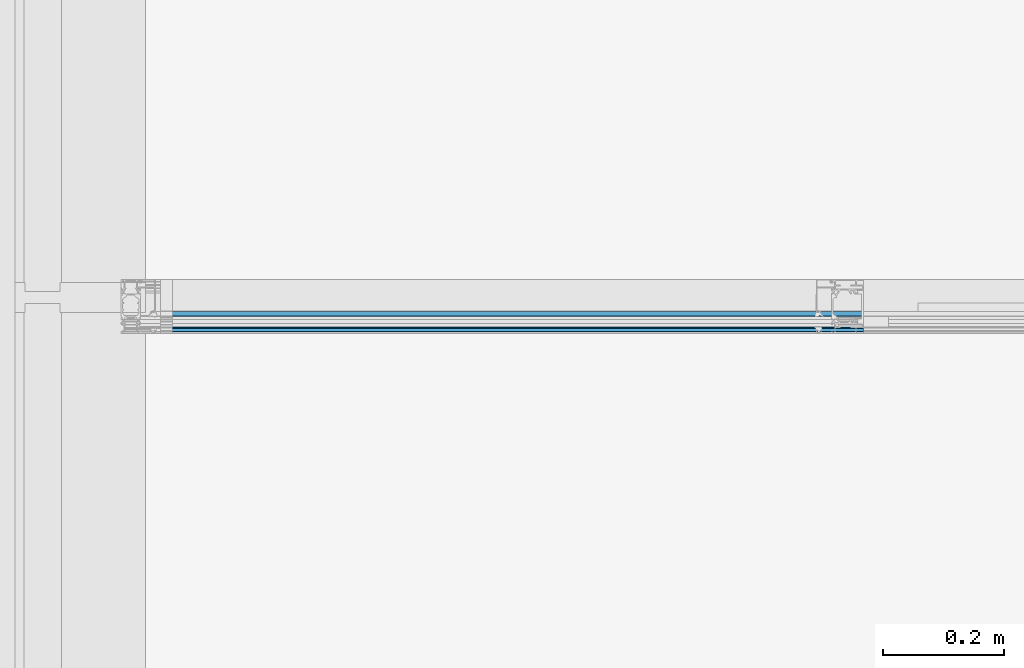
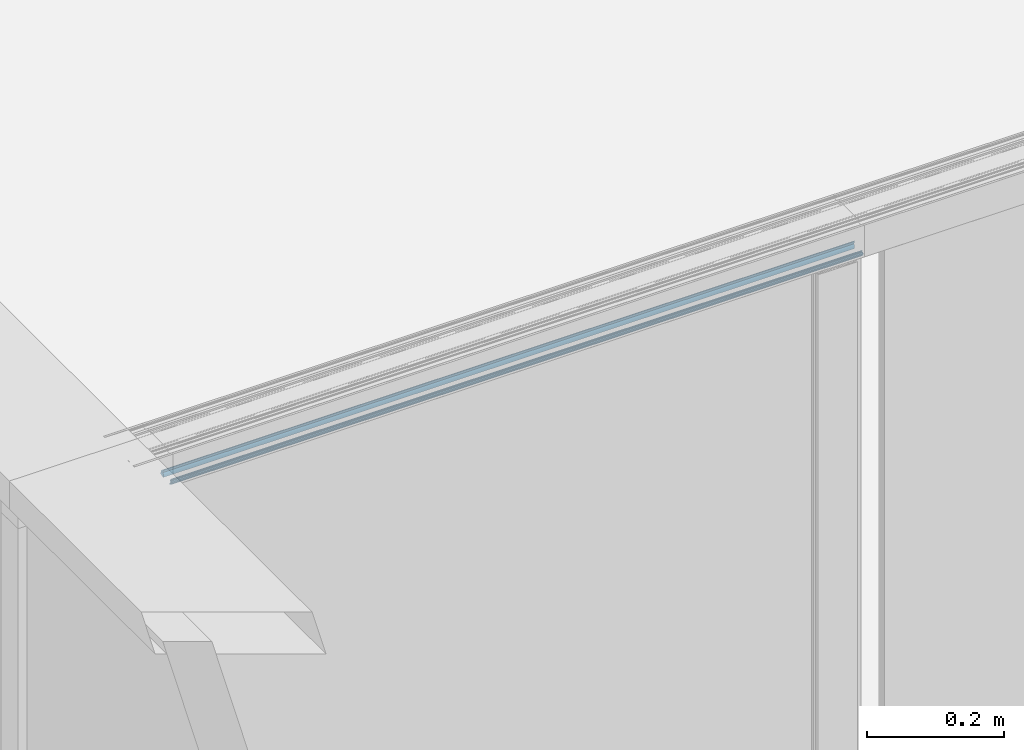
# One storey, part 15 of 69: 1 building element part, 2 elements without a shape of their own.
"""IFC2X3 building model written with IfcOpenShell, lengths in millimetres."""

from ifc_helpers import new_model, entity, si_unit, converted_unit, derived_unit, money_unit, direction, frame, origin_with_axes, place, context, subcontext, project, spatial, faceted_brep, material, type_object, element, aggregate, save


model = new_model("IFC2X3")

# Units and contexts
model_context = context("Model", 3, precision=0.01, world=origin_with_axes(), true_north=direction((0.0, 1.0)))
body_context = subcontext(model_context, "Body", "Model", "MODEL_VIEW")
ifc_project = project(units=[si_unit("LENGTHUNIT", "METRE", prefix="MILLI"), si_unit("AREAUNIT", "SQUARE_METRE"), si_unit("VOLUMEUNIT", "CUBIC_METRE"), converted_unit("PLANEANGLEUNIT", "DEGREE", entity("IfcPlaneAngleMeasure", 0.0174532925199), si_unit("PLANEANGLEUNIT", "RADIAN"), dimensions=[0, 0, 0, 0, 0, 0, 0]), si_unit("SOLIDANGLEUNIT", "STERADIAN"), money_unit("EUR"), converted_unit("TIMEUNIT", "Year", entity("IfcTimeMeasure", 31556926.0), si_unit("TIMEUNIT", "SECOND"), dimensions=[0, 0, 1, 0, 0, 0, 0]), si_unit("MASSUNIT", "GRAM", prefix="KILO"), si_unit("THERMODYNAMICTEMPERATUREUNIT", "DEGREE_CELSIUS"), si_unit("LUMINOUSINTENSITYUNIT", "LUMEN"), si_unit("ENERGYUNIT", "JOULE", prefix="MEGA"), derived_unit("THERMALCONDUCTANCEUNIT", [(si_unit("POWERUNIT", "WATT"), 1), (si_unit("LENGTHUNIT", "METRE"), -1), (si_unit("THERMODYNAMICTEMPERATUREUNIT", "KELVIN"), -1)]), derived_unit("SPECIFICHEATCAPACITYUNIT", [(si_unit("ENERGYUNIT", "JOULE"), 1), (si_unit("MASSUNIT", "GRAM", prefix="KILO"), -1), (si_unit("THERMODYNAMICTEMPERATUREUNIT", "KELVIN"), -1)]), derived_unit("MASSDENSITYUNIT", [(si_unit("MASSUNIT", "GRAM", prefix="KILO"), 1), (si_unit("VOLUMEUNIT", "CUBIC_METRE"), -1)])], contexts=[model_context])

# Site, building, storey
site_placement = place(None, origin_with_axes())
site = spatial("IfcSite", under=ifc_project, at=site_placement, Name="Puškini 31, Narva", CompositionType="ELEMENT")
building_placement = place(site_placement, origin_with_axes())
building = spatial("IfcBuilding", under=site, at=building_placement, Name="Narva Riigigümnaasium", CompositionType="ELEMENT")
storey_placement = place(building_placement, origin_with_axes())
storey = spatial("IfcBuildingStorey", under=building, at=storey_placement, Name="1.korrus 0.00", CompositionType="ELEMENT", Elevation=0.0)

# Curtain wall, member, building element part
curtain_wall_type = type_object("IfcCurtainWallType", Name="Curtain Wall Type", PredefinedType="NOTDEFINED")
curtain_wall_placement = place(storey_placement, frame((18229.9603698, 152620.000001, -0.397158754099), z_axis=(0.0, 0.0, 1.0), x_axis=(1.0, 0.0, 0.0)))
curtain_wall = element("IfcCurtainWall", 1, at=curtain_wall_placement, inside=storey, type_object=curtain_wall_type, Name="G-KLF-01-1")
member_type = type_object("IfcMemberType", Name="61 x 45", PredefinedType="MULLION")
member_placement = place(curtain_wall_placement, frame((-941.130133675, 0.0, 3760.3971197), z_axis=(-1.0, 0.0, 0.0), x_axis=(0.0, 0.0, 1.0)))
member = element("IfcMember", 2, at=member_placement, type_object=member_type, Name="G-SKLF-11-raam", ObjectType="MULLION")
aggregate(curtain_wall, [member])
ifc_material = material(Name="Membraan - Veekindel")
building_element_part_placement = place(member_placement, origin_with_axes())
building_element_part = element("IfcBuildingElementPart", 3, at=building_element_part_placement, material=ifc_material, Name="Membraan - Veekindel", context=body_context, shape_type="Brep", body=[
    faceted_brep([(-61.0413385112, -34.3890442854, 0.0), (-59.5800222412, -34.73794757, 0.0), (-59.5800222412, -34.73794757, 1164.46299881), (-61.0413385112, -34.3890442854, 1164.46299881), (-61.1536677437, -34.1934467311, 0.0), (-61.1423164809, -33.9681748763, 0.0), (-61.0108941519, -33.784859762, 0.0), (-60.7381535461, -33.9217644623, 0.0), (-59.8409257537, -34.1343131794, 0.0), (-58.2346494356, -34.5489145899, 0.0), (-56.9567944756, -35.6067920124, 0.0), (-56.2495873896, -37.1074172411, 0.0), (-56.1542959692, -37.3107917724, 0.0), (-55.9795989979, -37.4519392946, 0.0), (-55.7607444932, -37.5023809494, 0.0), (-55.1093263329, -37.5023809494, 0.0), (-54.8593263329, -37.4353936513, 0.0), (-54.676313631, -37.2523809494, 0.0), (-54.2721684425, -36.5523809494, 0.0), (-54.0891557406, -36.3693682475, 0.0), (-53.8391557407, -36.3023809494, 0.0), (-51.602145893, -36.3023809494, 0.0), (-51.352145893, -36.3693682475, 0.0), (-51.1691331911, -36.5523809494, 0.0), (-50.7649880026, -37.2523809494, 0.0), (-50.5819753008, -37.4353936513, 0.0), (-50.3319753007, -37.5023809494, 0.0), (-49.2206527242, -37.5023809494, 0.0), (-48.9706527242, -37.5693682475, 0.0), (-48.7876400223, -37.7523809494, 0.0), (-48.7206527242, -38.0023809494, 0.0), (-48.7206527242, -39.1999494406, 0.0), (-50.10004, -39.1999494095, 0.0), (-50.1670287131, -38.9499497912, 0.0), (-50.3500424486, -38.7669381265, 0.0), (-50.6000428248, -38.699952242, 0.0), (-50.8500424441, -38.7669409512, 0.0), (-51.0330541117, -38.9499546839, 0.0), (-51.10004, -39.1999550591, 0.0), (-51.10004, -40.4999366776, 0.0), (-51.0598476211, -40.6499366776, 0.0), (-50.95004, -40.7597442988, 0.0), (-50.80004, -40.7999366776, 0.0), (-50.7000457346, -40.7999366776, 0.0), (-50.5334025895, -40.8504763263, 0.0), (-50.4229059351, -40.9850671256, 0.0), (-50.4057850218, -41.1583618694, 0.0), (-50.4878083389, -41.3119729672, 0.0), (-51.5281601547, -42.3533311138, 0.0), (-51.6904310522, -42.4618421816, 0.0), (-51.8818844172, -42.4999486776, 0.0), (-53.517932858, -42.4999486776, 0.0), (-53.7093558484, -42.4618547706, 0.0), (-53.8716106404, -42.3533776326, 0.0), (-54.9122350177, -41.3120206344, 0.0), (-54.9942836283, -41.1584047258, 0.0), (-54.9771753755, -40.9850924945, 0.0), (-54.866675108, -40.850483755, 0.0), (-54.7000173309, -40.7999366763, 0.0), (-54.6000210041, -40.7999366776, 0.0), (-54.4500210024, -40.7597443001, 0.0), (-54.3402133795, -40.6499366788, 0.0), (-54.300021, -40.4999366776, 0.0), (-54.300021, -39.1999606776, 0.0), (-54.3670082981, -38.9499606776, 0.0), (-54.5500210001, -38.7669479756, 0.0), (-54.8000210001, -38.6999606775, 0.0), (-55.0500210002, -38.7669479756, 0.0), (-55.2330337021, -38.9499606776, 0.0), (-55.3000210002, -39.1999606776, 0.0), (-57.3000022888, -39.1999494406, 0.0), (-57.3000022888, -39.9999846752, 0.0), (-57.5000161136, -39.9463912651, 0.0), (-57.6464370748, -39.7999717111, 0.0), (-57.7000324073, -39.5999584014, 0.0), (-57.9693613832, -36.5265882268, 0.0), (-58.4755028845, -35.3628499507, 0.0), (-53.5000340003, -40.7999553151, 0.0), (-53.4330491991, -41.0499459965, 0.0), (-53.2500433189, -41.2329518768, 0.0), (-53.0000526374, -41.299936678, 0.0), (-52.4000083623, -41.299936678, 0.0), (-52.150017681, -41.2329518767, 0.0), (-51.9670118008, -41.0499459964, 0.0), (-51.9000269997, -40.799955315, 0.0), (-51.9000269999, -39.6999268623, 0.0), (-51.9670129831, -39.4499317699, 0.0), (-52.1500220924, -39.2669226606, 0.0), (-52.4000171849, -39.1999366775, 0.0), (-53.0000438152, -39.1999366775, 0.0), (-53.2500389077, -39.2669226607, 0.0), (-53.433048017, -39.44993177, 0.0), (-58.4755028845, -35.3628499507, 1164.46299881), (-57.9693613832, -36.5265882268, 1164.46299881), (-57.7000324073, -39.5999584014, 1164.46299881), (-57.6464370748, -39.7999717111, 1164.46299881), (-57.5000161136, -39.9463912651, 1164.46299881), (-57.3000022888, -39.9999846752, 1164.46299881), (-57.3000022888, -39.1999494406, 1164.46299881), (-55.3000210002, -39.1999606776, 1164.46299881), (-55.2330337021, -38.9499606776, 1164.46299881), (-55.0500210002, -38.7669479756, 1164.46299881), (-54.8000210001, -38.6999606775, 1164.46299881), (-54.5500210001, -38.7669479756, 1164.46299881), (-54.3670082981, -38.9499606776, 1164.46299881), (-54.300021, -39.1999606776, 1164.46299881), (-54.300021, -40.4999366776, 1164.46299881), (-54.3402133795, -40.6499366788, 1164.46299881), (-54.4500210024, -40.7597443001, 1164.46299881), (-54.6000210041, -40.7999366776, 1164.46299881), (-54.7000173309, -40.7999366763, 1164.46299881), (-54.866675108, -40.850483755, 1164.46299881), (-54.9771753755, -40.9850924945, 1164.46299881), (-54.9942836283, -41.1584047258, 1164.46299881), (-54.9122350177, -41.3120206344, 1164.46299881), (-53.8716106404, -42.3533776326, 1164.46299881), (-53.7093558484, -42.4618547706, 1164.46299881), (-53.517932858, -42.4999486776, 1164.46299881), (-51.8818844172, -42.4999486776, 1164.46299881), (-51.6904310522, -42.4618421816, 1164.46299881), (-51.5281601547, -42.3533311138, 1164.46299881), (-50.4878083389, -41.3119729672, 1164.46299881), (-50.4057850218, -41.1583618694, 1164.46299881), (-50.4229059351, -40.9850671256, 1164.46299881), (-50.5334025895, -40.8504763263, 1164.46299881), (-50.7000457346, -40.7999366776, 1164.46299881), (-50.80004, -40.7999366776, 1164.46299881), (-50.95004, -40.7597442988, 1164.46299881), (-51.0598476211, -40.6499366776, 1164.46299881), (-51.10004, -40.4999366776, 1164.46299881), (-51.10004, -39.1999550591, 1164.46299881), (-51.0330541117, -38.9499546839, 1164.46299881), (-50.8500424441, -38.7669409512, 1164.46299881), (-50.6000428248, -38.699952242, 1164.46299881), (-50.3500424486, -38.7669381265, 1164.46299881), (-50.1670287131, -38.9499497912, 1164.46299881), (-50.10004, -39.1999494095, 1164.46299881), (-48.7206527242, -39.1999494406, 1164.46299881), (-48.7206527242, -38.0023809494, 1164.46299881), (-48.7876400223, -37.7523809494, 1164.46299881), (-48.9706527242, -37.5693682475, 1164.46299881), (-49.2206527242, -37.5023809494, 1164.46299881), (-50.3319753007, -37.5023809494, 1164.46299881), (-50.5819753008, -37.4353936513, 1164.46299881), (-50.7649880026, -37.2523809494, 1164.46299881), (-51.1691331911, -36.5523809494, 1164.46299881), (-51.352145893, -36.3693682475, 1164.46299881), (-51.602145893, -36.3023809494, 1164.46299881), (-53.8391557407, -36.3023809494, 1164.46299881), (-54.0891557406, -36.3693682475, 1164.46299881), (-54.2721684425, -36.5523809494, 1164.46299881), (-54.676313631, -37.2523809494, 1164.46299881), (-54.8593263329, -37.4353936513, 1164.46299881), (-55.1093263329, -37.5023809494, 1164.46299881), (-55.7607444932, -37.5023809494, 1164.46299881), (-55.9795989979, -37.4519392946, 1164.46299881), (-56.1542959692, -37.3107917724, 1164.46299881), (-56.2495873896, -37.1074172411, 1164.46299881), (-56.9567944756, -35.6067920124, 1164.46299881), (-58.2346494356, -34.5489145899, 1164.46299881), (-59.8409257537, -34.1343131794, 1164.46299881), (-60.7381535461, -33.9217644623, 1164.46299881), (-61.0108941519, -33.784859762, 1164.46299881), (-61.1423164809, -33.9681748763, 1164.46299881), (-61.1536677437, -34.1934467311, 1164.46299881), (-53.5000340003, -40.7999553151, 1164.46299881), (-53.433048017, -39.44993177, 1164.46299881), (-53.2500389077, -39.2669226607, 1164.46299881), (-53.0000438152, -39.1999366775, 1164.46299881), (-52.4000171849, -39.1999366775, 1164.46299881), (-52.1500220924, -39.2669226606, 1164.46299881), (-51.9670129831, -39.4499317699, 1164.46299881), (-51.9000269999, -39.6999268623, 1164.46299881), (-51.9000269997, -40.799955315, 1164.46299881), (-51.9670118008, -41.0499459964, 1164.46299881), (-52.150017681, -41.2329518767, 1164.46299881), (-52.4000083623, -41.299936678, 1164.46299881), (-53.0000526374, -41.299936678, 1164.46299881), (-53.2500433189, -41.2329518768, 1164.46299881), (-53.4330491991, -41.0499459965, 1164.46299881)], [[[0, 1, 2, 3]], [[0, 4, 5, 6, 7, 8, 9, 10, 11, 12, 13, 14, 15, 16, 17, 18, 19, 20, 21, 22, 23, 24, 25, 26, 27, 28, 29, 30, 31, 32, 33, 34, 35, 36, 37, 38, 39, 40, 41, 42, 43, 44, 45, 46, 47, 48, 49, 50, 51, 52, 53, 54, 55, 56, 57, 58, 59, 60, 61, 62, 63, 64, 65, 66, 67, 68, 69, 70, 71, 72, 73, 74, 75, 76, 1], [77, 78, 79, 80, 81, 82, 83, 84, 85, 86, 87, 88, 89, 90, 91]], [[1, 76, 92, 2]], [[3, 2, 92, 93, 94, 95, 96, 97, 98, 99, 100, 101, 102, 103, 104, 105, 106, 107, 108, 109, 110, 111, 112, 113, 114, 115, 116, 117, 118, 119, 120, 121, 122, 123, 124, 125, 126, 127, 128, 129, 130, 131, 132, 133, 134, 135, 136, 137, 138, 139, 140, 141, 142, 143, 144, 145, 146, 147, 148, 149, 150, 151, 152, 153, 154, 155, 156, 157, 158, 159, 160, 161, 162, 163, 164], [165, 166, 167, 168, 169, 170, 171, 172, 173, 174, 175, 176, 177, 178, 179]], [[4, 0, 3, 164]], [[5, 4, 164, 163]], [[6, 5, 163, 162]], [[7, 6, 162, 161]], [[8, 7, 161, 160]], [[9, 8, 160, 159]], [[10, 9, 159, 158]], [[11, 10, 158, 157]], [[12, 11, 157, 156]], [[13, 12, 156, 155]], [[14, 13, 155, 154]], [[15, 14, 154, 153]], [[16, 15, 153, 152]], [[17, 16, 152, 151]], [[18, 17, 151, 150]], [[19, 18, 150, 149]], [[20, 19, 149, 148]], [[21, 20, 148, 147]], [[22, 21, 147, 146]], [[23, 22, 146, 145]], [[24, 23, 145, 144]], [[25, 24, 144, 143]], [[26, 25, 143, 142]], [[27, 26, 142, 141]], [[28, 27, 141, 140]], [[29, 28, 140, 139]], [[30, 29, 139, 138]], [[31, 30, 138, 137]], [[32, 31, 137, 136]], [[33, 32, 136, 135]], [[34, 33, 135, 134]], [[35, 34, 134, 133]], [[36, 35, 133, 132]], [[37, 36, 132, 131]], [[38, 37, 131, 130]], [[39, 38, 130, 129]], [[40, 39, 129, 128]], [[41, 40, 128, 127]], [[42, 41, 127, 126]], [[43, 42, 126, 125]], [[44, 43, 125, 124]], [[45, 44, 124, 123]], [[46, 45, 123, 122]], [[47, 46, 122, 121]], [[48, 47, 121, 120]], [[49, 48, 120, 119]], [[50, 49, 119, 118]], [[51, 50, 118, 117]], [[52, 51, 117, 116]], [[53, 52, 116, 115]], [[54, 53, 115, 114]], [[55, 54, 114, 113]], [[56, 55, 113, 112]], [[57, 56, 112, 111]], [[58, 57, 111, 110]], [[59, 58, 110, 109]], [[60, 59, 109, 108]], [[61, 60, 108, 107]], [[62, 61, 107, 106]], [[63, 62, 106, 105]], [[64, 63, 105, 104]], [[65, 64, 104, 103]], [[66, 65, 103, 102]], [[67, 66, 102, 101]], [[68, 67, 101, 100]], [[69, 68, 100, 99]], [[70, 69, 99, 98]], [[71, 70, 98, 97]], [[72, 71, 97, 96]], [[73, 72, 96, 95]], [[74, 73, 95, 94]], [[75, 74, 94, 93]], [[76, 75, 93, 92]], [[78, 77, 165, 179]], [[79, 78, 179, 178]], [[80, 79, 178, 177]], [[81, 80, 177, 176]], [[82, 81, 176, 175]], [[83, 82, 175, 174]], [[84, 83, 174, 173]], [[85, 84, 173, 172]], [[86, 85, 172, 171]], [[87, 86, 171, 170]], [[88, 87, 170, 169]], [[89, 88, 169, 168]], [[90, 89, 168, 167]], [[91, 90, 167, 166]], [[77, 91, 166, 165]]]),
    faceted_brep([(-59.0307115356, -16.554149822, 0.0), (-55.9926715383, -16.8063498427, 0.0), (-55.9926715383, -16.8063498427, 1164.46299881), (-59.0307115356, -16.554149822, 1164.46299881), (-59.3884652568, -16.1092618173, 0.0), (-59.5001582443, -15.5494067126, 0.0), (-59.3405112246, -15.0012955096, 0.0), (-57.5418652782, -10.0035930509, 0.0), (-57.2632233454, -8.46932121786, 0.0), (-57.1824204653, -8.36745448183, 0.0), (-57.0661058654, -8.3093438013, 0.0), (-56.9361285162, -8.30590490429, 0.0), (-55.5361285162, -8.57803733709, 0.0), (-55.4168250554, -8.6299735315, 0.0), (-55.3307332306, -8.7275382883, 0.0), (-55.2940485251, -8.85237785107, 0.0), (-55.4099827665, -9.81272116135, 0.0), (-55.3838261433, -9.97808311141, 0.0), (-55.2731258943, -10.1036784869, 0.0), (-55.1123574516, -10.1503930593, 0.0), (-53.0580290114, -10.1503930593, 0.0), (-52.8859560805, -10.0961386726, 0.0), (-52.7761212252, -9.95299910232, 0.0), (-52.3556584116, -8.79778701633, 0.0), (-52.2574645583, -8.66326410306, 0.0), (-52.1026310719, -8.60190419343, 0.0), (-51.938943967, -8.6326446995, 0.0), (-51.8169217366, -8.74599822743, 0.0), (-45.6142070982, -15.4144760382, 0.0), (-45.3418968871, -15.7688623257, 0.0), (-45.3195226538, -16.2152275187, 0.0), (-45.3889077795, -16.3899097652, 0.0), (-45.6241929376, -16.6482027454, 0.0), (-45.950966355, -16.7718696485, 0.0), (-46.298307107, -16.7340705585, 0.0), (-50.5536994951, -15.2121179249, 0.0), (-50.8437237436, -15.0307134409, 0.0), (-51.0558924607, -14.9074036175, 0.0), (-51.3011765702, -14.8998814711, 0.0), (-51.5205025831, -15.0099586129, 0.0), (-53.1225200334, -16.3483062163, 0.0), (-53.7899070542, -16.6230039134, 0.0), (-53.7899070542, -16.6230039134, 1164.46299881), (-53.1225200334, -16.3483062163, 1164.46299881), (-51.5205025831, -15.0099586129, 1164.46299881), (-51.3011765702, -14.8998814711, 1164.46299881), (-51.0558924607, -14.9074036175, 1164.46299881), (-50.8437237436, -15.0307134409, 1164.46299881), (-50.5536994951, -15.2121179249, 1164.46299881), (-46.298307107, -16.7340705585, 1164.46299881), (-45.950966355, -16.7718696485, 1164.46299881), (-45.6241929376, -16.6482027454, 1164.46299881), (-45.3889077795, -16.3899097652, 1164.46299881), (-45.3195226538, -16.2152275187, 1164.46299881), (-45.3418968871, -15.7688623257, 1164.46299881), (-45.6142070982, -15.4144760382, 1164.46299881), (-51.8169217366, -8.74599822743, 1164.46299881), (-51.938943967, -8.6326446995, 1164.46299881), (-52.1026310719, -8.60190419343, 1164.46299881), (-52.2574645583, -8.66326410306, 1164.46299881), (-52.3556584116, -8.79778701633, 1164.46299881), (-52.7761212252, -9.95299910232, 1164.46299881), (-52.8859560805, -10.0961386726, 1164.46299881), (-53.0580290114, -10.1503930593, 1164.46299881), (-55.1123574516, -10.1503930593, 1164.46299881), (-55.2731258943, -10.1036784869, 1164.46299881), (-55.3838261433, -9.97808311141, 1164.46299881), (-55.4099827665, -9.81272116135, 1164.46299881), (-55.2940485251, -8.85237785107, 1164.46299881), (-55.3307332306, -8.7275382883, 1164.46299881), (-55.4168250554, -8.6299735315, 1164.46299881), (-55.5361285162, -8.57803733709, 1164.46299881), (-56.9361285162, -8.30590490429, 1164.46299881), (-57.0661058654, -8.3093438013, 1164.46299881), (-57.1824204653, -8.36745448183, 1164.46299881), (-57.2632233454, -8.46932121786, 1164.46299881), (-57.5418652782, -10.0035930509, 1164.46299881), (-59.3405112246, -15.0012955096, 1164.46299881), (-59.5001582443, -15.5494067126, 1164.46299881), (-59.3884652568, -16.1092618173, 1164.46299881)], [[[0, 1, 2, 3]], [[0, 4, 5, 6, 7, 8, 9, 10, 11, 12, 13, 14, 15, 16, 17, 18, 19, 20, 21, 22, 23, 24, 25, 26, 27, 28, 29, 30, 31, 32, 33, 34, 35, 36, 37, 38, 39, 40, 41, 1]], [[1, 41, 42, 2]], [[3, 2, 42, 43, 44, 45, 46, 47, 48, 49, 50, 51, 52, 53, 54, 55, 56, 57, 58, 59, 60, 61, 62, 63, 64, 65, 66, 67, 68, 69, 70, 71, 72, 73, 74, 75, 76, 77, 78, 79]], [[4, 0, 3, 79]], [[5, 4, 79, 78]], [[6, 5, 78, 77]], [[7, 6, 77, 76]], [[8, 7, 76, 75]], [[9, 8, 75, 74]], [[10, 9, 74, 73]], [[11, 10, 73, 72]], [[12, 11, 72, 71]], [[13, 12, 71, 70]], [[14, 13, 70, 69]], [[15, 14, 69, 68]], [[16, 15, 68, 67]], [[17, 16, 67, 66]], [[18, 17, 66, 65]], [[19, 18, 65, 64]], [[20, 19, 64, 63]], [[21, 20, 63, 62]], [[22, 21, 62, 61]], [[23, 22, 61, 60]], [[24, 23, 60, 59]], [[25, 24, 59, 58]], [[26, 25, 58, 57]], [[27, 26, 57, 56]], [[28, 27, 56, 55]], [[29, 28, 55, 54]], [[30, 29, 54, 53]], [[31, 30, 53, 52]], [[32, 31, 52, 51]], [[33, 32, 51, 50]], [[34, 33, 50, 49]], [[35, 34, 49, 48]], [[36, 35, 48, 47]], [[37, 36, 47, 46]], [[38, 37, 46, 45]], [[39, 38, 45, 44]], [[40, 39, 44, 43]], [[41, 40, 43, 42]]]),
])
aggregate(member, [building_element_part])

save(model, "model.ifc")
